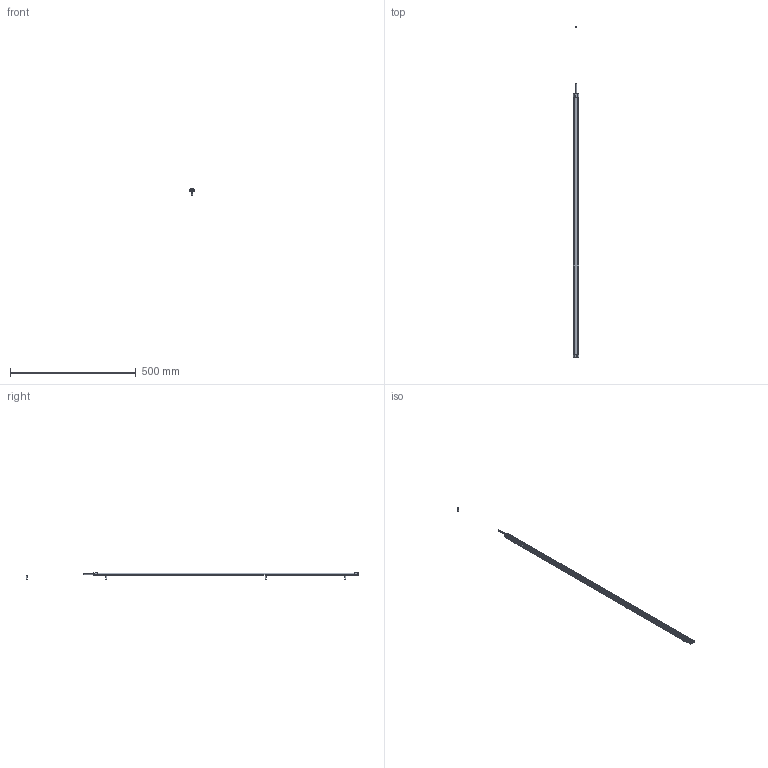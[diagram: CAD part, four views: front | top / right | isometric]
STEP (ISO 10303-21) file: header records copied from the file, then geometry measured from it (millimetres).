
FILE_DESCRIPTION (( 'STEP AP214' ), '1' );
FILE_NAME ('ILGA-B-K1-1050mm.STEP', '2026-04-24T22:50:12', ( '' ), ( '' ), 'SwSTEP 2.0', 'SolidWorks 2025', '' );
FILE_SCHEMA (( 'AUTOMOTIVE_DESIGN' ));
Length unit declared in the file: millimetre
Products named in the file (1): ILGA-B-K1-1050mm
Bounding box: 22.4 x 1319.49 x 25.7 mm (x, y, z)
Volume: 80693.3 mm3; surface area: 143636.2 mm2
Topology: 13 solids, 13 shells, 724 faces, 1856 edges, 1136 vertices
Faces by surface type: plane 314, cylinder 268, cone 60, torus 42, bspline 24, sphere 16
Entity records: 30221 total; most frequent: CARTESIAN_POINT 4617, DIRECTION 3820, ORIENTED_EDGE 3624, EDGE_CURVE 1812, AXIS2_PLACEMENT_3D 1427, VERTEX_POINT 1136, VECTOR 966, LINE 966
